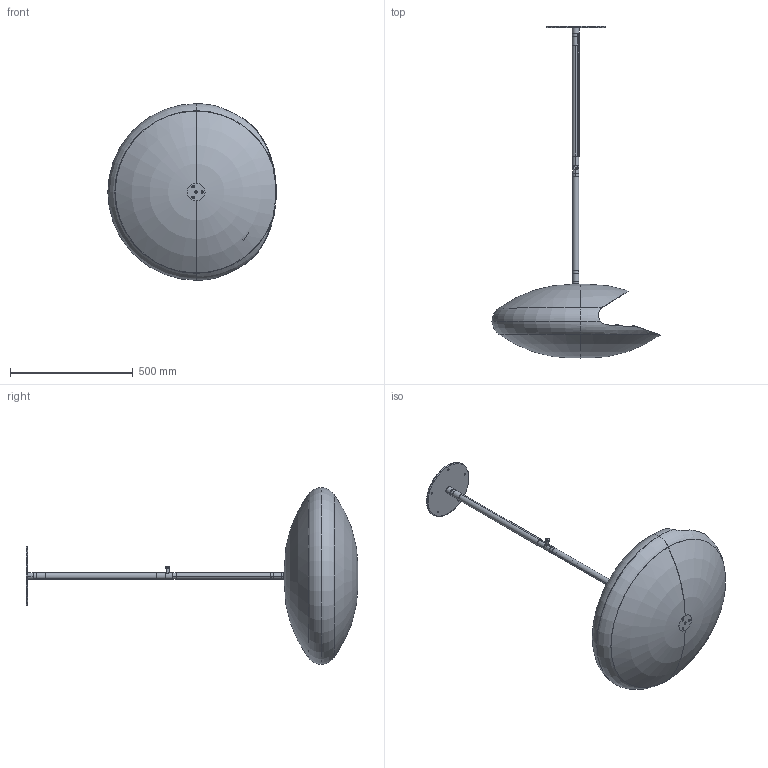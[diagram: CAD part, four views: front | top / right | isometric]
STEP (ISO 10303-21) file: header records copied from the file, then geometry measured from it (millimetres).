
FILE_DESCRIPTION (( 'STEP AP203' ), '1' );
FILE_NAME ('Espoo with telescopic cailing bar.STEP', '2024-03-14T14:13:02', ( '' ), ( '' ), 'SwSTEP 2.0', 'SolidWorks 2023', '' );
FILE_SCHEMA (( 'CONFIG_CONTROL_DESIGN' ));
Length unit declared in the file: millimetre
Products named in the file (49): ESP-0100 - JDR; ESP-0101 - JDR; PGPart 04-01 - JDR; PGAssembly 04 - JDR; PGPart 05-01 - JDR; ESP-0600 - JDR; ESP-0704 - JDR; ESP-0302 - JDR; PGAssembly 02 - JDR; PGAssembly 05 - JDR; PGPart 03-01 - JDR; ESP-0400 - JDR; ESP-0701 - JDR; ESP-0602 - JDR; justering lås - JDR; PGAssembly 01 - JDR; ESP-1000 - JDR; ESP-0102 - JDR; PGPart 02-03 - JDR; ESP-0500 - JDR; ESP-1003 - JDR; ESP-0700 - JDR; ESP-0702 - JDR; ESP-0705 - JDR; Espoo with telescopic cailing bar; ESP-0503 - JDR; PGPart 03-04 - JDR; PGAssembly 03 - JDR; Part 03-05 - JDR; ESP-1004 - JDR; ESP-0601 - JDR; PGPart 02-01 - JDR; PGAssembly 00 - JDR; ESP-1005 - JDR; ESP-1001 - JDR; PGPart 01-01 - JDR; ESP-0603 - JDR; PGPart 03-03 - JDR; ESP-0300 - JDR; ESP-0402 - JDR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
Assembly tree (50 placements, depth 4):
  Espoo with telescopic cailing bar
    ESP-0100 - JDR
      ESP-0101 - JDR
      ESP-0102 - JDR
    ESP-0300 - JDR
      ESP-0302 - JDR
    ESP-0400 - JDR
      ESP-0402 - JDR
    ESP-0500 - JDR
      ESP-0503 - JDR
      ESP-0603 - JDR
    ESP-0600 - JDR
      ESP-0601 - JDR
      ESP-0602 - JDR
      ESP-0603 - JDR
    ESP-0700 - JDR
      ESP-0701 - JDR
      ESP-0703 - JDR
      ESP-0702 - JDR
      ESP-0704 - JDR
      ESP-0705 - JDR
    ESP-1000 - JDR
      ESP-1001 - JDR
      ESP-1002 - JDR
      ESP-1003 - JDR  x2
      ESP-1004 - JDR
      ESP-1005 - JDR
    PGAssembly 00 - JDR
      PGAssembly 01 - JDR
        PGPart 01-01 - JDR
        PGPart 01-02 - JDR
      PGAssembly 02 - JDR
        PGPart 02-01 - JDR
        PGPart 02-02 - JDR
        PGPart 02-03 - JDR
      PGAssembly 03 - JDR
        PGPart 03-01 - JDR
        PGPart 03-02 - JDR
        PGPart 03-04 - JDR
        PGPart 03-03 - JDR
        Part 03-05 - JDR
      PGAssembly 04 - JDR
        PGPart 04-01 - JDR
        PGPart 04-02 - JDR
      PGAssembly 05 - JDR
        PGPart 05-01 - JDR
        PGPart 05-02 - JDR
    ESP-0301 - Kopi - JDR
    justering lås - JDR
    justering lås - Kopi - JDR
Bounding box: 685.69 x 1353.05 x 720 mm (x, y, z)
Volume: 3542308.1 mm3; surface area: 2852706.9 mm2
Topology: 43 solids, 43 shells, 2618 faces, 8336 edges, 6106 vertices
Faces by surface type: cylinder 1558, plane 834, cone 86, bspline 76, torus 60, sphere 4
Entity records: 113154 total; most frequent: CARTESIAN_POINT 33216, ORIENTED_EDGE 16460, DIRECTION 15074, EDGE_CURVE 8230, VERTEX_POINT 6044, AXIS2_PLACEMENT_3D 5648, LINE 3778, VECTOR 3778
